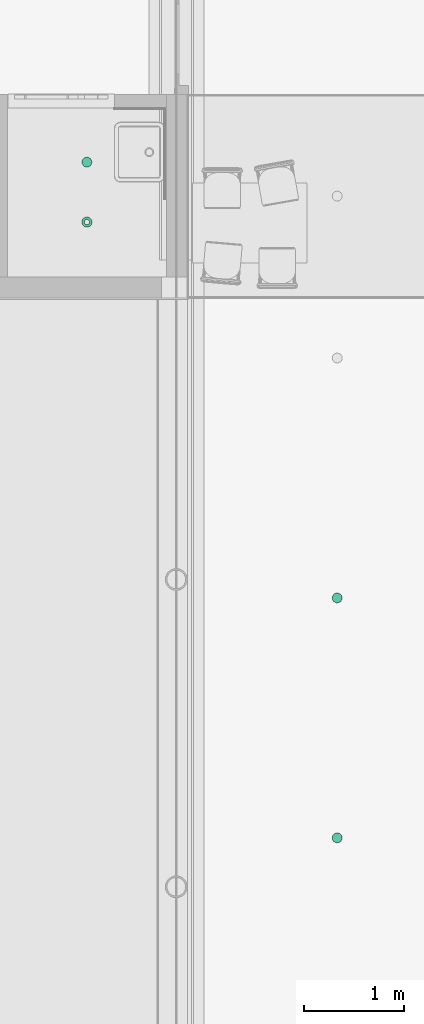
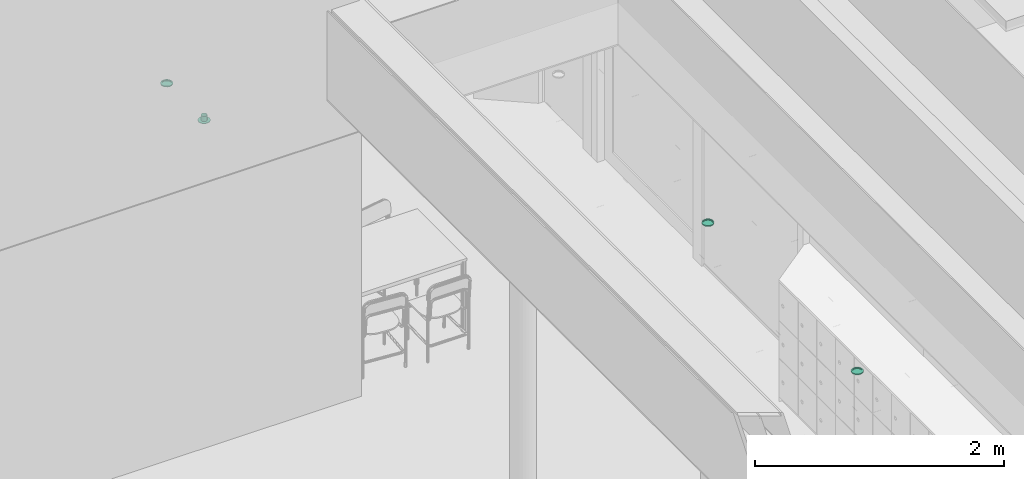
# One storey, part 247 of 347: 4 flow terminals.
"""IFC2X3 building model written with IfcOpenShell, lengths in millimetres."""

from ifc_helpers import new_model, entity, si_unit, converted_unit, derived_unit, money_unit, direction, frame, origin_with_axes, place, context, subcontext, project, spatial, open_shell, faceted_brep, surface_model, source, transform, mapped, type_object, type_shapes, element, save


model = new_model("IFC2X3")

# Units and contexts
model_context = context("Model", 3, precision=0.01, world=origin_with_axes(), true_north=direction((0.0, 1.0)))
plan_context = context("Plan", 3, precision=0.01, world=origin_with_axes(), true_north=direction((0.0, 1.0)))
body_context = subcontext(model_context, "Body", "Model", "MODEL_VIEW")
ifc_project = project(units=[si_unit("LENGTHUNIT", "METRE", prefix="MILLI"), si_unit("AREAUNIT", "SQUARE_METRE"), si_unit("VOLUMEUNIT", "CUBIC_METRE"), converted_unit("PLANEANGLEUNIT", "DEGREE", entity("IfcPlaneAngleMeasure", 0.0174532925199), si_unit("PLANEANGLEUNIT", "RADIAN"), dimensions=[0, 0, 0, 0, 0, 0, 0]), money_unit("EUR"), converted_unit("TIMEUNIT", "Year", entity("IfcTimeMeasure", 31556926.0), si_unit("TIMEUNIT", "SECOND"), dimensions=[0, 0, 1, 0, 0, 0, 0]), si_unit("MASSUNIT", "GRAM", prefix="KILO"), si_unit("THERMODYNAMICTEMPERATUREUNIT", "DEGREE_CELSIUS"), si_unit("LUMINOUSINTENSITYUNIT", "LUMEN"), si_unit("ENERGYUNIT", "JOULE", prefix="MEGA"), derived_unit("THERMALCONDUCTANCEUNIT", [(si_unit("POWERUNIT", "WATT"), 1), (si_unit("LENGTHUNIT", "METRE"), -1), (si_unit("THERMODYNAMICTEMPERATUREUNIT", "KELVIN"), -1)]), derived_unit("SPECIFICHEATCAPACITYUNIT", [(si_unit("ENERGYUNIT", "JOULE"), 1), (si_unit("MASSUNIT", "GRAM", prefix="KILO"), -1), (si_unit("THERMODYNAMICTEMPERATUREUNIT", "KELVIN"), -1)]), derived_unit("MASSDENSITYUNIT", [(si_unit("MASSUNIT", "GRAM", prefix="KILO"), 1), (si_unit("VOLUMEUNIT", "CUBIC_METRE"), -1)])], contexts=[model_context, plan_context])

# Site, building, storey
site_placement = place(None, origin_with_axes())
site = spatial("IfcSite", under=ifc_project, at=site_placement, Name="Site", CompositionType="ELEMENT")
building_placement = place(site_placement, origin_with_axes())
building = spatial("IfcBuilding", under=site, at=building_placement, Name="Naam gebouw", CompositionType="ELEMENT")
storey_placement = place(building_placement, origin_with_axes())
storey = spatial("IfcBuildingStorey", under=building, at=storey_placement, Name="begane grond", CompositionType="ELEMENT", Elevation=0.0)

# Flow terminals
lamp_type = type_object("IfcLampType", Name="Spot plafond 01 25", PredefinedType="NOTDEFINED")
shared_shape_1 = source(origin_with_axes(), body_context, "Body", "SurfaceModel", [
    faceted_brep([(50.0, 0.0, -10.0), (46.1939766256, 19.1341716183, -10.0), (46.1939766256, 19.1341716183, 0.0), (50.0, 0.0, 0.0), (46.1939766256, -19.1341716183, -10.0), (35.3553390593, -35.3553390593, -10.0), (19.1341716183, -46.1939766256, -10.0), (0.0, -50.0, -10.0), (-19.1341716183, -46.1939766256, -10.0), (-35.3553390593, -35.3553390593, -10.0), (-46.1939766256, -19.1341716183, -10.0), (-50.0, 0.0, -10.0), (-46.1939766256, 19.1341716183, -10.0), (-35.3553390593, 35.3553390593, -10.0), (-19.1341716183, 46.1939766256, -10.0), (0.0, 50.0, -10.0), (19.1341716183, 46.1939766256, -10.0), (35.3553390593, 35.3553390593, -10.0), (40.0, 0.0, -10.0), (36.9551813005, 15.3073372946, -10.0), (28.2842712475, 28.2842712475, -10.0), (15.3073372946, 36.9551813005, -10.0), (0.0, 40.0, -10.0), (-15.3073372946, 36.9551813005, -10.0), (-28.2842712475, 28.2842712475, -10.0), (-36.9551813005, 15.3073372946, -10.0), (-40.0, 0.0, -10.0), (-36.9551813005, -15.3073372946, -10.0), (-28.2842712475, -28.2842712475, -10.0), (-15.3073372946, -36.9551813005, -10.0), (0.0, -40.0, -10.0), (15.3073372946, -36.9551813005, -10.0), (28.2842712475, -28.2842712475, -10.0), (36.9551813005, -15.3073372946, -10.0), (35.3553390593, 35.3553390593, 0.0), (19.1341716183, 46.1939766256, 0.0), (0.0, 50.0, 0.0), (-19.1341716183, 46.1939766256, 0.0), (-35.3553390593, 35.3553390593, 0.0), (-46.1939766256, 19.1341716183, 0.0), (-50.0, 0.0, 0.0), (-46.1939766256, -19.1341716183, 0.0), (-35.3553390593, -35.3553390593, 0.0), (-19.1341716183, -46.1939766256, 0.0), (0.0, -50.0, 0.0), (19.1341716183, -46.1939766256, 0.0), (35.3553390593, -35.3553390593, 0.0), (46.1939766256, -19.1341716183, 0.0), (40.0, 0.0, 0.0), (36.9551813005, -15.3073372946, 0.0), (28.2842712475, -28.2842712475, 0.0), (15.3073372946, -36.9551813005, 0.0), (0.0, -40.0, 0.0), (-15.3073372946, -36.9551813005, 0.0), (-28.2842712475, -28.2842712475, 0.0), (-36.9551813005, -15.3073372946, 0.0), (-40.0, 0.0, 0.0), (-36.9551813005, 15.3073372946, 0.0), (-28.2842712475, 28.2842712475, 0.0), (-15.3073372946, 36.9551813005, 0.0), (0.0, 40.0, 0.0), (15.3073372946, 36.9551813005, 0.0), (28.2842712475, 28.2842712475, 0.0), (36.9551813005, 15.3073372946, 0.0)], [[[0, 1, 2, 3]], [[0, 4, 5, 6, 7, 8, 9, 10, 11, 12, 13, 14, 15, 16, 17, 1], [18, 19, 20, 21, 22, 23, 24, 25, 26, 27, 28, 29, 30, 31, 32, 33]], [[1, 17, 34, 2]], [[3, 2, 34, 35, 36, 37, 38, 39, 40, 41, 42, 43, 44, 45, 46, 47], [48, 49, 50, 51, 52, 53, 54, 55, 56, 57, 58, 59, 60, 61, 62, 63]], [[4, 0, 3, 47]], [[5, 4, 47, 46]], [[6, 5, 46, 45]], [[7, 6, 45, 44]], [[8, 7, 44, 43]], [[9, 8, 43, 42]], [[10, 9, 42, 41]], [[11, 10, 41, 40]], [[12, 11, 40, 39]], [[13, 12, 39, 38]], [[14, 13, 38, 37]], [[15, 14, 37, 36]], [[16, 15, 36, 35]], [[17, 16, 35, 34]], [[19, 18, 48, 63]], [[20, 19, 63, 62]], [[21, 20, 62, 61]], [[22, 21, 61, 60]], [[23, 22, 60, 59]], [[24, 23, 59, 58]], [[25, 24, 58, 57]], [[26, 25, 57, 56]], [[27, 26, 56, 55]], [[28, 27, 55, 54]], [[29, 28, 54, 53]], [[30, 29, 53, 52]], [[31, 30, 52, 51]], [[32, 31, 51, 50]], [[33, 32, 50, 49]], [[18, 33, 49, 48]]]),
    surface_model("IfcShellBasedSurfaceModel", [(40.0, 0.0, -8.9), (36.9551813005, -15.3073372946, -8.9), (28.2842712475, -28.2842712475, -8.9), (15.3073372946, -36.9551813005, -8.9), (0.0, -40.0, -8.9), (-15.3073372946, -36.9551813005, -8.9), (-28.2842712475, -28.2842712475, -8.9), (-36.9551813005, -15.3073372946, -8.9), (-40.0, 0.0, -8.9), (-36.9551813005, 15.3073372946, -8.9), (-28.2842712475, 28.2842712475, -8.9), (-15.3073372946, 36.9551813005, -8.9), (0.0, 40.0, -8.9), (15.3073372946, 36.9551813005, -8.9), (28.2842712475, 28.2842712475, -8.9), (36.9551813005, 15.3073372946, -8.9)], [open_shell([[[0, 1, 2, 3, 4, 5, 6, 7, 8, 9, 10, 11, 12, 13, 14, 15]]])]),
])
type_shapes(lamp_type, [shared_shape_1])
for number, where, z_axis, x_axis, name in (
    (1, (43651.0, 27300.0, 2600.0), (0.0, 0.0, 1.0), (1.0, 0.0, 0.0), "63_Lamp-x"),
    (2, (46155.0, 22940.0001323, 3000.0), (0.0, 0.0, 1.0), (1.0, 0.0, 0.0), "63_Lamp-x"),
    (3, (46155.0, 20540.0001323, 3000.0), (0.0, 0.0, 1.0), (1.0, 0.0, 0.0), "63_Lamp-x"),
):
    element("IfcFlowTerminal", number, at=place(storey_placement, frame(where, z_axis=z_axis, x_axis=x_axis)), inside=storey, type_object=lamp_type, Name=name, ObjectType="Lamp", context=body_context, shape_type="MappedRepresentation", body=[
        mapped(shared_shape_1, transform((0.0, 0.0, 0.0))),
    ])
air_terminal_type = type_object("IfcAirTerminalType", Name="Rooster plafond rond 25", PredefinedType="GRILLE")
shared_shape_2 = source(origin_with_axes(), body_context, "Body", "SurfaceModel", [
    faceted_brep([(51.0, 0.0, -5.0), (49.2622171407, 13.1997713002, -5.0), (49.2622171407, 13.1997713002, 0.0), (51.0, 0.0, 0.0), (49.2622171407, -13.1997713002, -5.0), (44.167295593, -25.5, -5.0), (36.0624458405, -36.0624458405, -5.0), (25.5, -44.167295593, -5.0), (13.1997713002, -49.2622171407, -5.0), (0.0, -51.0, -5.0), (-13.1997713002, -49.2622171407, -5.0), (-25.5, -44.167295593, -5.0), (-36.0624458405, -36.0624458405, -5.0), (-44.167295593, -25.5, -5.0), (-49.2622171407, -13.1997713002, -5.0), (-51.0, 0.0, -5.0), (-49.2622171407, 13.1997713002, -5.0), (-44.167295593, 25.5, -5.0), (-36.0624458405, 36.0624458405, -5.0), (-25.5, 44.167295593, -5.0), (-13.1997713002, 49.2622171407, -5.0), (0.0, 51.0, -5.0), (13.1997713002, 49.2622171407, -5.0), (25.5, 44.167295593, -5.0), (36.0624458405, 36.0624458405, -5.0), (44.167295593, 25.5, -5.0), (26.0, 0.0, -5.0), (25.1140714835, 6.72929517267, -5.0), (22.5166604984, 13.0, -5.0), (18.3847763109, 18.3847763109, -5.0), (13.0, 22.5166604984, -5.0), (6.72929517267, 25.1140714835, -5.0), (0.0, 26.0, -5.0), (-6.72929517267, 25.1140714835, -5.0), (-13.0, 22.5166604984, -5.0), (-18.3847763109, 18.3847763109, -5.0), (-22.5166604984, 13.0, -5.0), (-25.1140714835, 6.72929517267, -5.0), (-26.0, 0.0, -5.0), (-25.1140714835, -6.72929517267, -5.0), (-22.5166604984, -13.0, -5.0), (-18.3847763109, -18.3847763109, -5.0), (-13.0, -22.5166604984, -5.0), (-6.72929517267, -25.1140714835, -5.0), (0.0, -26.0, -5.0), (6.72929517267, -25.1140714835, -5.0), (13.0, -22.5166604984, -5.0), (18.3847763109, -18.3847763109, -5.0), (22.5166604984, -13.0, -5.0), (25.1140714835, -6.72929517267, -5.0), (44.167295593, 25.5, 0.0), (36.0624458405, 36.0624458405, 0.0), (25.5, 44.167295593, 0.0), (13.1997713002, 49.2622171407, 0.0), (0.0, 51.0, 0.0), (-13.1997713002, 49.2622171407, 0.0), (-25.5, 44.167295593, 0.0), (-36.0624458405, 36.0624458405, 0.0), (-44.167295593, 25.5, 0.0), (-49.2622171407, 13.1997713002, 0.0), (-51.0, 0.0, 0.0), (-49.2622171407, -13.1997713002, 0.0), (-44.167295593, -25.5, 0.0), (-36.0624458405, -36.0624458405, 0.0), (-25.5, -44.167295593, 0.0), (-13.1997713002, -49.2622171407, 0.0), (0.0, -51.0, 0.0), (13.1997713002, -49.2622171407, 0.0), (25.5, -44.167295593, 0.0), (36.0624458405, -36.0624458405, 0.0), (44.167295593, -25.5, 0.0), (49.2622171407, -13.1997713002, 0.0), (26.0, 0.0, 0.0), (25.1140714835, -6.72929517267, 0.0), (22.5166604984, -13.0, 0.0), (18.3847763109, -18.3847763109, 0.0), (13.0, -22.5166604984, 0.0), (6.72929517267, -25.1140714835, 0.0), (0.0, -26.0, 0.0), (-6.72929517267, -25.1140714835, 0.0), (-13.0, -22.5166604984, 0.0), (-18.3847763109, -18.3847763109, 0.0), (-22.5166604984, -13.0, 0.0), (-25.1140714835, -6.72929517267, 0.0), (-26.0, 0.0, 0.0), (-25.1140714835, 6.72929517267, 0.0), (-22.5166604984, 13.0, 0.0), (-18.3847763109, 18.3847763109, 0.0), (-13.0, 22.5166604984, 0.0), (-6.72929517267, 25.1140714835, 0.0), (0.0, 26.0, 0.0), (6.72929517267, 25.1140714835, 0.0), (13.0, 22.5166604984, 0.0), (18.3847763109, 18.3847763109, 0.0), (22.5166604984, 13.0, 0.0), (25.1140714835, 6.72929517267, 0.0)], [[[0, 1, 2, 3]], [[0, 4, 5, 6, 7, 8, 9, 10, 11, 12, 13, 14, 15, 16, 17, 18, 19, 20, 21, 22, 23, 24, 25, 1], [26, 27, 28, 29, 30, 31, 32, 33, 34, 35, 36, 37, 38, 39, 40, 41, 42, 43, 44, 45, 46, 47, 48, 49]], [[1, 25, 50, 2]], [[3, 2, 50, 51, 52, 53, 54, 55, 56, 57, 58, 59, 60, 61, 62, 63, 64, 65, 66, 67, 68, 69, 70, 71], [72, 73, 74, 75, 76, 77, 78, 79, 80, 81, 82, 83, 84, 85, 86, 87, 88, 89, 90, 91, 92, 93, 94, 95]], [[4, 0, 3, 71]], [[5, 4, 71, 70]], [[6, 5, 70, 69]], [[7, 6, 69, 68]], [[8, 7, 68, 67]], [[9, 8, 67, 66]], [[10, 9, 66, 65]], [[11, 10, 65, 64]], [[12, 11, 64, 63]], [[13, 12, 63, 62]], [[14, 13, 62, 61]], [[15, 14, 61, 60]], [[16, 15, 60, 59]], [[17, 16, 59, 58]], [[18, 17, 58, 57]], [[19, 18, 57, 56]], [[20, 19, 56, 55]], [[21, 20, 55, 54]], [[22, 21, 54, 53]], [[23, 22, 53, 52]], [[24, 23, 52, 51]], [[25, 24, 51, 50]], [[27, 26, 72, 95]], [[28, 27, 95, 94]], [[29, 28, 94, 93]], [[30, 29, 93, 92]], [[31, 30, 92, 91]], [[32, 31, 91, 90]], [[33, 32, 90, 89]], [[34, 33, 89, 88]], [[35, 34, 88, 87]], [[36, 35, 87, 86]], [[37, 36, 86, 85]], [[38, 37, 85, 84]], [[39, 38, 84, 83]], [[40, 39, 83, 82]], [[41, 40, 82, 81]], [[42, 41, 81, 80]], [[43, 42, 80, 79]], [[44, 43, 79, 78]], [[45, 44, 78, 77]], [[46, 45, 77, 76]], [[47, 46, 76, 75]], [[48, 47, 75, 74]], [[49, 48, 74, 73]], [[26, 49, 73, 72]]]),
    surface_model("IfcShellBasedSurfaceModel", [(0.0, -26.0, 0.0), (6.72929517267, -25.1140714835, 0.0), (6.72929517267, -25.1140714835, 50.0), (0.0, -26.0, 50.0), (13.0, -22.5166604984, 0.0), (13.0, -22.5166604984, 50.0), (-6.72929517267, -25.1140714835, 0.0), (-6.72929517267, -25.1140714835, 50.0), (18.3847763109, -18.3847763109, 0.0), (18.3847763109, -18.3847763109, 50.0), (-13.0, -22.5166604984, 0.0), (-13.0, -22.5166604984, 50.0), (22.5166604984, -13.0, 0.0), (22.5166604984, -13.0, 50.0), (-18.3847763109, -18.3847763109, 0.0), (-18.3847763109, -18.3847763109, 50.0), (25.1140714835, -6.72929517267, 0.0), (25.1140714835, -6.72929517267, 50.0), (-22.5166604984, -13.0, 0.0), (-22.5166604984, -13.0, 50.0), (26.0, 0.0, 0.0), (26.0, 0.0, 50.0), (-25.1140714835, -6.72929517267, 0.0), (-25.1140714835, -6.72929517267, 50.0), (25.1140714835, 6.72929517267, 0.0), (25.1140714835, 6.72929517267, 50.0), (-26.0, 0.0, 0.0), (-26.0, 0.0, 50.0), (22.5166604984, 13.0, 0.0), (22.5166604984, 13.0, 50.0), (-25.1140714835, 6.72929517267, 0.0), (-25.1140714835, 6.72929517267, 50.0), (18.3847763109, 18.3847763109, 0.0), (18.3847763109, 18.3847763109, 50.0), (-22.5166604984, 13.0, 0.0), (-22.5166604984, 13.0, 50.0), (13.0, 22.5166604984, 0.0), (13.0, 22.5166604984, 50.0), (-18.3847763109, 18.3847763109, 0.0), (-18.3847763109, 18.3847763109, 50.0), (6.72929517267, 25.1140714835, 0.0), (6.72929517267, 25.1140714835, 50.0), (-13.0, 22.5166604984, 0.0), (-13.0, 22.5166604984, 50.0), (0.0, 26.0, 0.0), (0.0, 26.0, 50.0), (-6.72929517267, 25.1140714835, 0.0), (-6.72929517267, 25.1140714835, 50.0)], [open_shell([[[0, 1, 2, 3]], [[1, 4, 5, 2]], [[6, 0, 3, 7]], [[4, 8, 9, 5]], [[10, 6, 7, 11]], [[8, 12, 13, 9]], [[14, 10, 11, 15]], [[12, 16, 17, 13]], [[18, 14, 15, 19]], [[16, 20, 21, 17]], [[22, 18, 19, 23]], [[20, 24, 25, 21]], [[26, 22, 23, 27]], [[24, 28, 29, 25]], [[30, 26, 27, 31]], [[28, 32, 33, 29]], [[34, 30, 31, 35]], [[32, 36, 37, 33]], [[38, 34, 35, 39]], [[36, 40, 41, 37]], [[42, 38, 39, 43]], [[40, 44, 45, 41]], [[46, 42, 43, 47]], [[44, 46, 47, 45]]])]),
])
type_shapes(air_terminal_type, [shared_shape_2])
flow_terminal_placement = place(storey_placement, frame((43651.0, 26700.0, 2600.0), z_axis=(0.0, 0.0, 1.0), x_axis=(1.0, 0.0, 0.0)))
element("IfcFlowTerminal", 4, at=flow_terminal_placement, inside=storey, type_object=air_terminal_type, Name="57_78 garderobe", context=body_context, shape_type="MappedRepresentation", body=[
    mapped(shared_shape_2, transform((0.0, 0.0, 0.0))),
])

save(model, "model.ifc")
